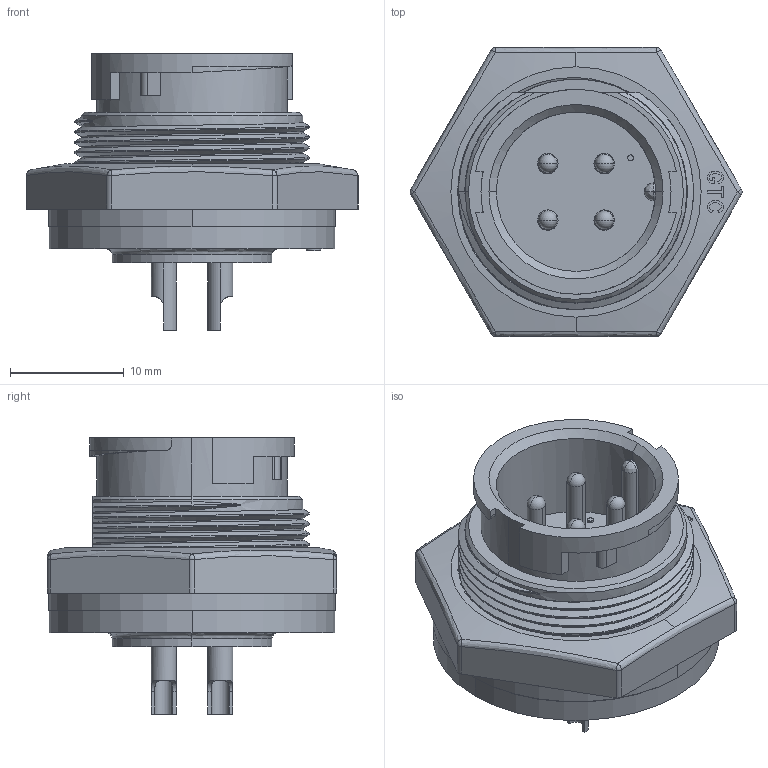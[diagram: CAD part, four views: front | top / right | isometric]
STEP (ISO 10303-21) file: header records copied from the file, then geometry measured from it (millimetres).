
FILE_DESCRIPTION (( 'STEP AP203' ), '1' );
FILE_NAME ('RR-153210-03040.STEP', '2025-02-26T07:39:52', ( '' ), ( '' ), 'SwSTEP 2.0', 'SolidWorks 2019', '' );
FILE_SCHEMA (( 'CONFIG_CONTROL_DESIGN' ));
Length unit declared in the file: millimetre
Products named in the file (1): RR-153210-03040
Bounding box: 29.17 x 25.4 x 24.3 mm (x, y, z)
Surface area: 5137.9 mm2 (no closed solid volume)
Topology: 0 solids, 4 shells, 512 faces, 1394 edges, 903 vertices
Faces by surface type: plane 204, bspline 148, cylinder 117, cone 29, sphere 14
Entity records: 50263 total; most frequent: CARTESIAN_POINT 39105, ORIENTED_EDGE 2738, DIRECTION 1555, EDGE_CURVE 1374, VERTEX_POINT 901, B_SPLINE_CURVE_WITH_KNOTS 674, EDGE_LOOP 549, LINE 533
